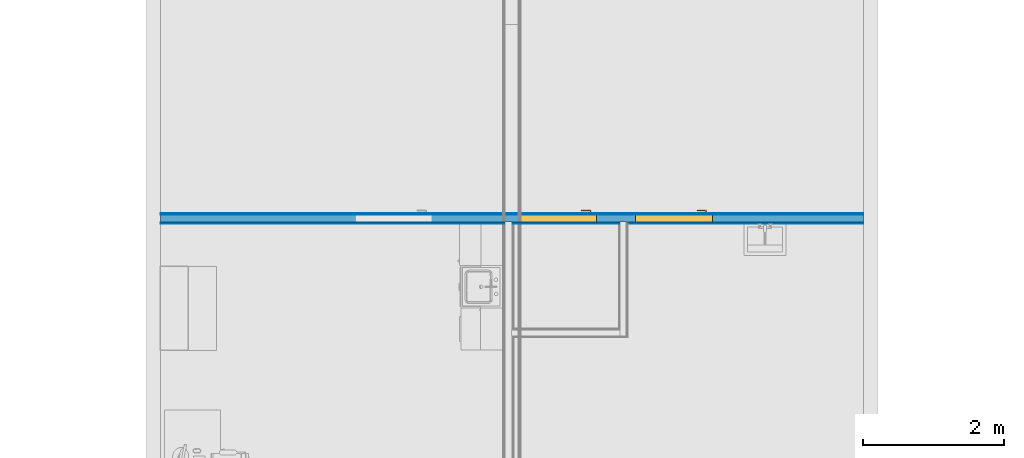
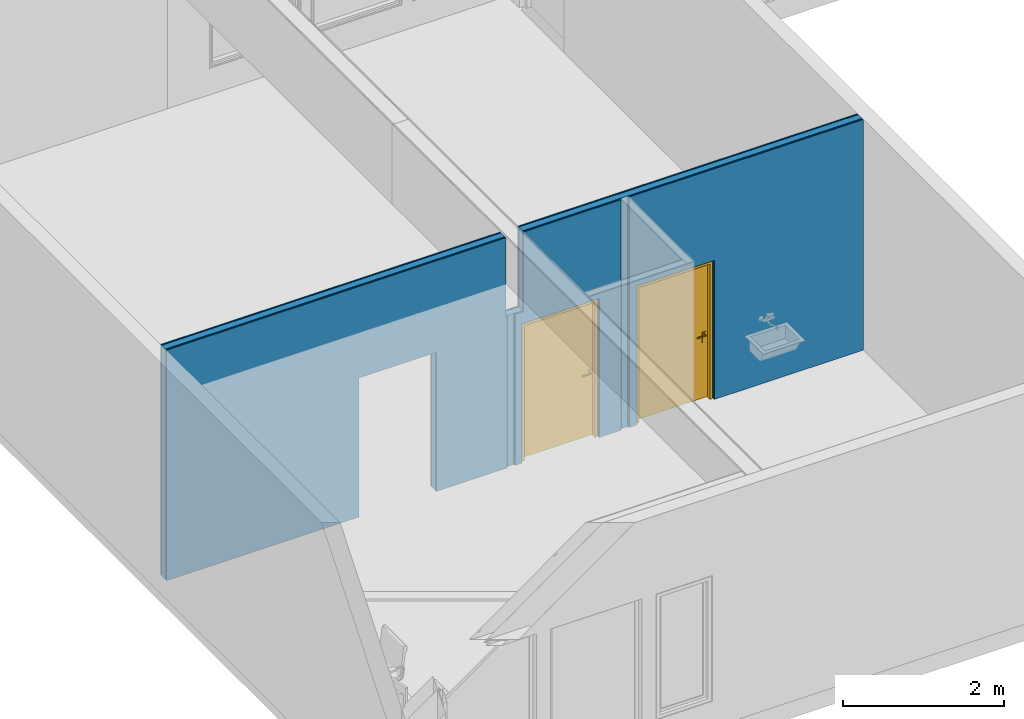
# One storey, part 4 of 12: 9 building element parts, 2 doors, 3 openings, 1 element without a shape of its own.
"""IFC4 building model written with IfcOpenShell, lengths in millimetres."""

from ifc_helpers import new_model, entity, si_unit, converted_unit, direction, frame, origin, place, context, subcontext, project, spatial, indexed_curve, outline, extrude, polygons, source, transform, mapped, material, constituent, constituent_set, type_object, type_shapes, element, fill, aggregate, save


model = new_model("IFC4")

# Units and contexts
model_context = context("Model", 3, precision=0.01, world=origin(), true_north=direction((0.0, 1.0)))
body_context = subcontext(model_context, "Body", "Model", "MODEL_VIEW")
ifc_project = project(units=[si_unit("LENGTHUNIT", "METRE", prefix="MILLI"), si_unit("AREAUNIT", "SQUARE_METRE"), si_unit("VOLUMEUNIT", "CUBIC_METRE"), converted_unit("PLANEANGLEUNIT", "DEGREE", entity("IfcPlaneAngleMeasure", 0.017453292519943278), si_unit("PLANEANGLEUNIT", "RADIAN"), dimensions=[0, 0, 0, 0, 0, 0, 0])], contexts=[model_context])

# Site, building, storey
site_placement = place(None, origin())
site = spatial("IfcSite", under=ifc_project, at=site_placement, Name="Tomtens navn", CompositionType="ELEMENT")
building_placement = place(site_placement, origin())
building = spatial("IfcBuilding", under=site, at=building_placement, Name="Byggets navn", CompositionType="ELEMENT")
storey_placement = place(building_placement, frame((0.0, 0.0, 3500.0)))
storey = spatial("IfcBuildingStorey", under=building, at=storey_placement, Name="Level 02", CompositionType="ELEMENT", Elevation=3499.999999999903)

# Door
ifc_material_1 = material(Name="Rustfritt Stål", Category="Metal")
ifc_constituent_1 = constituent(ifc_material_1, Name="Rustfritt Stål", Category="Metal", fraction=0.0016552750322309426)
ifc_material_2 = material(Name="Hvit", Category="Paint")
ifc_constituent_2 = constituent(ifc_material_2, Name="Hvit", Category="Paint", fraction=0.998344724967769)
ifc_constituent_set_1 = constituent_set(constituents=[ifc_constituent_1, ifc_constituent_2])
ifc_constituent_3 = constituent(ifc_material_1, Name="Rustfritt Stål", Category="Metal", fraction=0.0008283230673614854)
ifc_constituent_4 = constituent(ifc_material_2, Name="Panel", Category="Paint", fraction=0.4995858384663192)
ifc_constituent_5 = constituent(ifc_material_2, Name="Frame/Mullion", Category="Paint", fraction=0.4995858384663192)
ifc_constituent_set_2 = constituent_set(constituents=[ifc_constituent_3, ifc_constituent_4, ifc_constituent_5])
door_type = type_object("IfcDoorType", Name="Enfløyet:ID03 Tredør 11x21M - EI30", OperationType="SINGLE_SWING_LEFT", PredefinedType="DOOR", material=ifc_constituent_set_2)
shared_shape = source(origin(), body_context, "Body", "SweptSolid", [
    extrude(outline(indexed_curve([(-33.33333333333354, -50.833333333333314), (24.166666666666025, -50.833333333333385), (24.16666666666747, 86.66666666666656), (9.16666666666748, 86.6666666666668), (9.166666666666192, -35.83333333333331), (-33.33333333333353, -35.83333333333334), (-33.33333333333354, -50.833333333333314)], self_intersect=False)), frame((968.6666666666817, 147.94103942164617, 980.5000000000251), z_axis=(0.0, 0.0, 1.0), x_axis=(0.0, 1.0, 0.0)), (0.0, 0.0, 1.0), 14.999999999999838),
    extrude(outline(indexed_curve([(-2.8000000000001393, -25.000000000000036), (2.799999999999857, -25.000000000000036), (2.8000000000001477, 25.000000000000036), (-2.799999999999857, 24.999999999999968), (-2.8000000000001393, -25.000000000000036)], self_intersect=False)), frame((1012.0, 111.80000000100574, 850.9862950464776), z_axis=(0.0, 0.0, 1.0), x_axis=(0.0, -1.0, 0.0)), (0.0, 0.0, 1.0), 159.01370495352),
    extrude(outline(indexed_curve([(-50.83333333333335, -33.33333333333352), (-35.83333333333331, -33.33333333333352), (-35.83333333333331, 9.16666666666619), (86.66666666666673, 9.1666666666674), (86.66666666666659, 24.16666666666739), (-50.83333333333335, 24.16666666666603), (-50.83333333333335, -33.33333333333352)], self_intersect=False)), frame((968.6666666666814, 30.058960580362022, 980.5000000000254), z_axis=(0.0, 0.0, 1.0), x_axis=(-1.0, 0.0, 0.0)), (0.0, 0.0, 1.0), 14.999999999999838),
    extrude(outline(indexed_curve([(-24.999999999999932, -2.799999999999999), (25.00000000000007, -2.799999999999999), (25.0, 2.799999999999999), (-24.999999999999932, 2.800000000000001), (-24.999999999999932, -2.799999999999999)], self_intersect=False)), frame((1012.0, 66.20000000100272, 850.9862950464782)), (0.0, 0.0, 1.0), 159.01370495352),
    extrude(outline(indexed_curve([(-506.9999999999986, -19.999999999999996), (506.9999999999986, -19.999999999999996), (506.9999999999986, 19.999999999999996), (-506.9999999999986, 19.999999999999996), (-506.9999999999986, -19.999999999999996)], self_intersect=False)), frame((555.0, 89.00000000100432, 10.0)), (0.0, 0.0, 1.0), 2042.0),
    extrude(outline(indexed_curve([(506.99999999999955, -1035.5000000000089), (544.9999999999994, -1035.5000000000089), (544.9999999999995, 1054.5000000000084), (-544.9999999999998, 1054.5000000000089), (-544.9999999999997, -1035.5000000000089), (-506.99999999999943, -1035.5000000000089), (-506.99999999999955, 1016.5000000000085), (506.99999999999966, 1016.5000000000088), (506.99999999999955, -1035.5000000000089)], self_intersect=False)), frame((555.0, 109.00000000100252, 1035.5000000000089), z_axis=(0.0, -1.0, 0.0), x_axis=(1.0, 0.0, 0.0)), (0.0, 0.0, 1.0), 99.99999999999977),
])
type_shapes(door_type, [shared_shape])
wall_placement = place(storey_placement, frame((58622.85352810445, 14081.966456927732, 0.0)))
opening_1_placement = place(wall_placement, frame((6750.0, -74.50000000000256, 0.0)))
door_1_placement = place(opening_1_placement, frame((0.0, 20.0, 0.0)))
door_1 = element("IfcDoor", 1, at=door_1_placement, inside=storey, type_object=door_type, material=ifc_constituent_set_1, Name="Enfløyet:ID03 Tredør 11x21M - EI30", OverallHeight=2110.0000000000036, OverallWidth=1109.9999999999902, PredefinedType="DOOR", context=body_context, shape_type="MappedRepresentation", body=[
    mapped(shared_shape, transform((0.0, 0.0, 0.0), scale=1.0)),
])

ifc_constituent_6 = constituent(ifc_material_1, Name="Rustfritt Stål", Category="Metal", fraction=0.0016552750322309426)
ifc_constituent_7 = constituent(ifc_material_2, Name="Hvit", Category="Paint", fraction=0.998344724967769)
ifc_constituent_set_3 = constituent_set(constituents=[ifc_constituent_6, ifc_constituent_7])
opening_2_placement = place(wall_placement, frame((5102.500000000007, -74.50000000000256, 0.0)))
door_2_placement = place(opening_2_placement, frame((0.0, 20.0, 0.0)))
door_2 = element("IfcDoor", 2, at=door_2_placement, inside=storey, type_object=door_type, material=ifc_constituent_set_3, Name="Enfløyet:ID03 Tredør 11x21M - EI30", OverallHeight=2110.0000000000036, OverallWidth=1109.9999999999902, PredefinedType="DOOR", context=body_context, shape_type="MappedRepresentation", body=[
    mapped(shared_shape, transform((0.0, 0.0, 0.0), scale=1.0)),
])

# Wall, opening
wall_type = type_object("IfcWallType", Name="Basic Wall:IV05 - Forestia+Gips- Stender-kryssfiner- Gips", PredefinedType="STANDARD")
wall = element("IfcWall", 3, at=wall_placement, inside=storey, type_object=wall_type, Name="Basic Wall:IV05 - Forestia+Gips- Stender-kryssfiner- Gips", PredefinedType="NOTDEFINED")
opening_1 = element("IfcOpeningElement", 4, at=opening_1_placement, cuts=wall, Name="Enfløyet:ID03 Tredør 11x21M - EI30:1", PredefinedType="OPENING", context=body_context, shape_type="SweptSolid", body=[
    extrude(outline(indexed_curve([(0.0, -8.147794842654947e-29), (2110.0000000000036, -8.147794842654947e-29), (2110.000000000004, 1109.9999999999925), (0.0, 1109.9999999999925), (0.0, -8.147794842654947e-29)], self_intersect=False)), frame((0.0, 0.0, 0.0), z_axis=(0.0, 1.0, 0.0), x_axis=(0.0, 0.0, 1.0)), (0.0, 0.0, 1.0), 149.0),
])

fill(opening_1, door_1)

# Opening
opening_2 = element("IfcOpeningElement", 5, at=opening_2_placement, cuts=wall, Name="Enfløyet:ID03 Tredør 11x21M - EI30:1", PredefinedType="OPENING", context=body_context, shape_type="SweptSolid", body=[
    extrude(outline(indexed_curve([(0.0, -8.147794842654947e-29), (2110.0000000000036, -8.147794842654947e-29), (2110.000000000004, 1109.9999999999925), (0.0, 1109.9999999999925), (0.0, -8.147794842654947e-29)], self_intersect=False)), frame((0.0, 0.0, 0.0), z_axis=(0.0, 1.0, 0.0), x_axis=(0.0, 0.0, 1.0)), (0.0, 0.0, 1.0), 149.0),
])

fill(opening_2, door_2)

opening_3_placement = place(wall_placement, frame((2763.5000000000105, -74.50000000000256, 0.0)))
element("IfcOpeningElement", 6, at=opening_3_placement, cuts=wall, Name="Enfløyet:ID1 Glassdør 11x21M 38dB:1", PredefinedType="OPENING", context=body_context, shape_type="SweptSolid", body=[
    extrude(outline(indexed_curve([(0.0, -8.147794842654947e-29), (2110.0000000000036, -8.147794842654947e-29), (2110.000000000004, 1109.9999999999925), (0.0, 1109.9999999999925), (0.0, -8.147794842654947e-29)], self_intersect=False)), frame((0.0, 0.0, 0.0), z_axis=(0.0, 1.0, 0.0), x_axis=(0.0, 0.0, 1.0)), (0.0, 0.0, 1.0), 149.0),
])

# Building element part
ifc_material_3 = material(Name="NO_Kryssfiner", Category="Tre")
building_element_part_1_placement = place(wall_placement, frame((4994.499999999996, -61.5, 0.0)))
building_element_part_1 = element("IfcBuildingElementPart", 7, at=building_element_part_1_placement, material=ifc_material_3, Name="NO_Kryssfiner", context=body_context, shape_type="Tessellation", body=[
    polygons([(108.00000000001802, 14.999999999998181, 9.094947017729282e-13), (108.00000000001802, 15.0, 2110.000000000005), (108.00000000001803, 1.8189894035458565e-12, 2110.000000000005), (108.00000000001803, 1.8189894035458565e-12, 9.094947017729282e-13), (1218.0000000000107, 15.0, 2110.000000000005), (1218.0000000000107, 3.637978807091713e-12, 2110.000000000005), (1218.0000000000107, 15.0, 9.094947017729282e-13), (1218.0000000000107, 3.637978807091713e-12, 9.094947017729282e-13), (131.00000000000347, 14.999999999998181, 3500.000000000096), (131.00000000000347, 14.999999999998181, 2290.000000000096), (131.00000000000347, 1.8189894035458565e-12, 2290.000000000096), (131.00000000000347, 1.8189894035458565e-12, 3500.000000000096), (1541.0000000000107, 15.0, 1.8189894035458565e-12), (1541.0000000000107, 3.637978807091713e-12, 9.094947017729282e-13), (1541.0000000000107, 15.000000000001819, 3500.000000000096), (1541.0000000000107, 3.637978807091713e-12, 3500.000000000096), (1.0749273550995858e-11, 15.0, 2290.000000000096), (1.0749273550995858e-11, 15.0, 9.094947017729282e-13), (1.0753337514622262e-11, 1.8189894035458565e-12, 9.094947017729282e-13), (1.0753337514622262e-11, 1.8189894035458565e-12, 2290.000000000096)], [[[1, 2, 3, 4]], [[2, 5, 6, 3]], [[5, 7, 8, 6]], [[9, 10, 11, 12]], [[8, 7, 13, 14]], [[13, 15, 16, 14]], [[17, 18, 19, 20]], [[1, 4, 19, 18]], [[11, 10, 17, 20]], [[9, 12, 16, 15]], [[12, 11, 20, 19, 4, 3, 6, 8, 14, 16]], [[7, 5, 2, 1, 18, 17, 10, 9, 15, 13]]], closed=True),
])

building_element_part_2_placement = place(wall_placement, frame((6630.500000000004, -61.49999999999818, 0.0)))
building_element_part_2 = element("IfcBuildingElementPart", 8, at=building_element_part_2_placement, material=ifc_material_3, Name="NO_Kryssfiner", context=body_context, shape_type="Tessellation", body=[
    polygons([(3369.499999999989, 3.637978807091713e-12, 3500.000000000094), (3369.499999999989, 15.0, 3500.000000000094), (-3.8026416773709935e-12, 15.000000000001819, 3500.000000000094), (-3.79857771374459e-12, 3.637978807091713e-12, 3500.000000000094), (3369.499999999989, 15.0, 0.0), (3369.499999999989, 3.637978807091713e-12, -9.094947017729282e-13), (119.49999999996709, 15.0, -9.094947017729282e-13), (119.49999999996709, 15.0, 2110.000000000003), (119.4999999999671, 3.637978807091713e-12, 2110.000000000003), (119.4999999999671, 3.637978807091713e-12, -9.094947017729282e-13), (1229.4999999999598, 15.0, 2110.000000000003), (1229.4999999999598, 3.637978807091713e-12, 2110.000000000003), (1229.4999999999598, 15.0, -9.094947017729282e-13), (1229.4999999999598, 3.637978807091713e-12, -9.094947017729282e-13), (-3.8026416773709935e-12, 15.0, -9.094947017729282e-13), (-3.79857771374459e-12, 3.637978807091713e-12, -9.094947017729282e-13)], [[[1, 2, 3, 4]], [[5, 2, 1, 6]], [[7, 8, 9, 10]], [[8, 11, 12, 9]], [[11, 13, 14, 12]], [[13, 5, 6, 14]], [[3, 15, 16, 4]], [[7, 10, 16, 15]], [[14, 6, 1, 4, 16, 10, 9, 12]], [[5, 13, 11, 8, 7, 15, 3, 2]]], closed=True),
])

building_element_part_3_placement = place(wall_placement, frame((0.0, -61.5, 0.0)))
building_element_part_3 = element("IfcBuildingElementPart", 9, at=building_element_part_3_placement, material=ifc_material_3, Name="NO_Kryssfiner", context=body_context, shape_type="Tessellation", body=[
    polygons([(3873.500000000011, 15.000000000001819, 9.094947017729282e-13), (3873.500000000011, 15.000000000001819, 2110.000000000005), (2763.500000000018, 15.000000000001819, 2110.000000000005), (2763.500000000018, 15.000000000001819, 9.094947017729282e-13), (1.8025231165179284e-11, 15.000000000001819, 9.094947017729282e-13), (1.8025231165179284e-11, 15.000000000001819, 3500.000000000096), (4873.499999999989, 15.000000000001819, 3500.000000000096), (4873.500000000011, 15.000000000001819, 2290.000000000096), (4899.500000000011, 15.000000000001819, 2290.000000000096), (4899.500000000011, 15.000000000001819, 9.094947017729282e-13), (4873.500000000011, 3.637978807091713e-12, 2290.000000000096), (4873.499999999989, 3.637978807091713e-12, 3500.000000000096), (1.8029295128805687e-11, 3.637978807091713e-12, 3500.000000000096), (1.8029295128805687e-11, 3.637978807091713e-12, 9.094947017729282e-13), (2763.500000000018, 3.637978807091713e-12, 9.094947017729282e-13), (2763.500000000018, 3.637978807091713e-12, 2110.000000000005), (3873.500000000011, 3.637978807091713e-12, 2110.000000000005), (3873.500000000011, 3.637978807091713e-12, 1.8189894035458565e-12), (4899.500000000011, 3.637978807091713e-12, 9.094947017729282e-13), (4899.500000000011, 3.637978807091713e-12, 2290.000000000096)], [[[1, 2, 3, 4, 5, 6, 7, 8, 9, 10]], [[11, 12, 13, 14, 15, 16, 17, 18, 19, 20]], [[5, 4, 15, 14]], [[6, 5, 14, 13]], [[8, 7, 12, 11]], [[8, 11, 20, 9]], [[4, 3, 16, 15]], [[3, 2, 17, 16]], [[2, 1, 18, 17]], [[7, 6, 13, 12]], [[18, 1, 10, 19]], [[10, 9, 20, 19]]], closed=True),
])

ifc_material_4 = material(Name="NO_platekledning forestia", Category="Tre")
building_element_part_4_placement = place(wall_placement, frame((0.0, 61.49999999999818, 0.0)))
building_element_part_4 = element("IfcBuildingElementPart", 10, at=building_element_part_4_placement, material=ifc_material_4, Name="NO_platekledning forestia", context=body_context, shape_type="Tessellation", body=[
    polygons([(7859.9999999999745, 0.0, 9.094947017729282e-13), (10000.000000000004, 0.0, 9.094947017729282e-13), (10000.000000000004, 0.0, 3500.000000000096), (5125.500000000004, -1.8189894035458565e-12, 3500.000000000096), (5125.500000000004, -1.8189894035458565e-12, 2290.000000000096), (4873.500000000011, 3.637978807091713e-12, 2290.000000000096), (4873.499999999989, 3.637978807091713e-12, 3500.000000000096), (1.7995970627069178e-11, 3.637978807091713e-12, 3500.000000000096), (1.7995970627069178e-11, 3.637978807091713e-12, 9.094947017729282e-13), (2763.500000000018, 3.637978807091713e-12, 9.094947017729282e-13), (2763.500000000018, 3.637978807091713e-12, 2110.000000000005), (3873.500000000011, 3.637978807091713e-12, 2110.000000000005), (3873.500000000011, 3.637978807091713e-12, 9.094947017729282e-13), (5102.500000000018, -1.8189894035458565e-12, 9.094947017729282e-13), (5102.500000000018, -1.8189894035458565e-12, 2110.000000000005), (6212.500000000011, 0.0, 2110.000000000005), (6212.500000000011, 0.0, 9.094947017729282e-13), (6749.999999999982, 0.0, 9.094947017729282e-13), (6749.999999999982, 0.0, 2110.000000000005), (7859.9999999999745, 0.0, 2110.000000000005), (1.7992448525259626e-11, 13.000000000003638, 9.094947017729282e-13), (2763.500000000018, 13.000000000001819, 9.094947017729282e-13), (10000.000000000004, 13.000000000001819, 3500.000000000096), (5125.500000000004, 13.000000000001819, 3500.000000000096), (9999.999999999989, 13.000000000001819, 9.094947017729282e-13), (6749.999999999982, 13.000000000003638, 9.094947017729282e-13), (6749.999999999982, 13.000000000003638, 2110.000000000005), (7859.9999999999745, 13.000000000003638, 2110.000000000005), (7859.9999999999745, 13.000000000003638, 9.094947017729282e-13), (5102.500000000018, 13.000000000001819, 9.094947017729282e-13), (5102.500000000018, 13.000000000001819, 2110.000000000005), (6212.500000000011, 13.000000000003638, 2110.000000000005), (6212.500000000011, 13.000000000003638, 9.094947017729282e-13), (1.7992448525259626e-11, 13.000000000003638, 3500.000000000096), (4873.500000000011, 13.000000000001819, 2290.000000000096), (4873.499999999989, 13.000000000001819, 3500.000000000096), (5125.500000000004, 13.000000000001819, 2290.000000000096), (2763.500000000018, 13.000000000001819, 2110.000000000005), (3873.500000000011, 13.000000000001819, 2110.000000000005), (3873.500000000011, 13.000000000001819, 9.094947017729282e-13)], [[[1, 2, 3, 4, 5, 6, 7, 8, 9, 10, 11, 12, 13, 14, 15, 16, 17, 18, 19, 20]], [[21, 22, 10, 9]], [[23, 24, 4, 3]], [[25, 23, 3, 2]], [[26, 27, 19, 18]], [[27, 28, 20, 19]], [[28, 29, 1, 20]], [[30, 31, 15, 14]], [[31, 32, 16, 15]], [[32, 33, 17, 16]], [[34, 21, 9, 8]], [[35, 36, 7, 6]], [[24, 37, 5, 4]], [[37, 35, 6, 5]], [[22, 38, 11, 10]], [[38, 39, 12, 11]], [[39, 40, 13, 12]], [[36, 34, 8, 7]], [[40, 30, 14, 13]], [[33, 26, 18, 17]], [[29, 25, 2, 1]], [[23, 25, 29, 28, 27, 26, 33, 32, 31, 30, 40, 39, 38, 22, 21, 34, 36, 35, 37, 24]]], closed=True),
])

ifc_material_5 = material(Name="Stender", Category="Unassigned")
building_element_part_5_placement = place(wall_placement, frame((0.0, -46.50000000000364, 0.0)))
building_element_part_5 = element("IfcBuildingElementPart", 11, at=building_element_part_5_placement, material=ifc_material_5, Name="Stender", context=body_context, shape_type="Tessellation", body=[
    polygons([(7859.9999999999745, 5.4569682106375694e-12, 1.8189894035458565e-12), (10000.000000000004, 5.4569682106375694e-12, 1.8189894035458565e-12), (10000.000000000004, 5.4569682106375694e-12, 3500.000000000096), (5125.500000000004, 3.637978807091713e-12, 3500.000000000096), (5125.500000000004, 3.637978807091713e-12, 2290.000000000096), (4873.500000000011, 5.4569682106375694e-12, 2290.000000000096), (4873.499999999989, 5.4569682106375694e-12, 3500.000000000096), (1.8025231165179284e-11, 5.4569682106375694e-12, 3500.000000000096), (1.8025231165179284e-11, 5.4569682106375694e-12, 9.094947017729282e-13), (2763.500000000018, 5.4569682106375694e-12, 9.094947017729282e-13), (2763.500000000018, 5.4569682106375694e-12, 2110.000000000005), (3873.500000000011, 5.4569682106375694e-12, 2110.000000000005), (3873.500000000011, 5.4569682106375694e-12, 9.094947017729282e-13), (5102.500000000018, 3.637978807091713e-12, 9.094947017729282e-13), (5102.500000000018, 3.637978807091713e-12, 2110.000000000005), (6212.500000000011, 5.4569682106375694e-12, 2110.000000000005), (6212.500000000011, 5.4569682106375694e-12, 1.8189894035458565e-12), (6749.999999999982, 5.4569682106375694e-12, 9.094947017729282e-13), (6749.999999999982, 5.4569682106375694e-12, 2110.000000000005), (7859.9999999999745, 5.4569682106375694e-12, 2110.000000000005), (10000.000000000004, 95.00000000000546, 1.8189894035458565e-12), (7859.9999999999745, 95.00000000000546, 9.094947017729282e-13), (7859.9999999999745, 95.00000000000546, 2110.000000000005), (6749.999999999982, 95.00000000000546, 2110.000000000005), (6749.999999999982, 95.00000000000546, 9.094947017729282e-13), (6212.500000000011, 95.00000000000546, 9.094947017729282e-13), (6212.500000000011, 95.00000000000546, 2110.000000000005), (5102.500000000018, 95.00000000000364, 2110.000000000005), (5102.500000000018, 95.00000000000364, 9.094947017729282e-13), (3873.500000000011, 95.00000000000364, 9.094947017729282e-13), (3873.500000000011, 95.00000000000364, 2110.000000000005), (2763.500000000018, 95.00000000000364, 2110.000000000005), (2763.500000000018, 95.00000000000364, 9.094947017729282e-13), (1.7999492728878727e-11, 95.00000000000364, 9.094947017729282e-13), (1.7999492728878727e-11, 95.00000000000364, 3500.000000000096), (4873.499999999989, 95.00000000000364, 3500.000000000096), (4873.500000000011, 95.00000000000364, 2290.000000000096), (5125.500000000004, 95.00000000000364, 2290.000000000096), (5125.500000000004, 95.00000000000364, 3500.000000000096), (10000.000000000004, 95.00000000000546, 3500.000000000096)], [[[1, 2, 3, 4, 5, 6, 7, 8, 9, 10, 11, 12, 13, 14, 15, 16, 17, 18, 19, 20]], [[21, 22, 23, 24, 25, 26, 27, 28, 29, 30, 31, 32, 33, 34, 35, 36, 37, 38, 39, 40]], [[9, 34, 33, 10]], [[3, 40, 39, 4]], [[2, 21, 40, 3]], [[18, 25, 24, 19]], [[19, 24, 23, 20]], [[22, 1, 20, 23]], [[14, 29, 28, 15]], [[15, 28, 27, 16]], [[26, 17, 16, 27]], [[34, 9, 8, 35]], [[36, 7, 6, 37]], [[4, 39, 38, 5]], [[37, 6, 5, 38]], [[10, 33, 32, 11]], [[11, 32, 31, 12]], [[30, 13, 12, 31]], [[35, 8, 7, 36]], [[29, 14, 13, 30]], [[25, 18, 17, 26]], [[21, 2, 1, 22]]], closed=True),
])

ifc_material_6 = material(Name="Gipsplater", Category="NOR ^ Gips")
building_element_part_6_placement = place(wall_placement, frame((5009.499999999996, -74.50000000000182, 0.0)))
building_element_part_6 = element("IfcBuildingElementPart", 12, at=building_element_part_6_placement, material=ifc_material_6, Name="Gipsplater", context=body_context, shape_type="Tessellation", body=[
    polygons([(93.00000000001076, 13.000000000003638, 9.094947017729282e-13), (93.00000000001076, 13.000000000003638, 2110.000000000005), (93.00000000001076, 0.0, 2110.000000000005), (93.00000000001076, 0.0, 9.094947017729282e-13), (1203.0000000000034, 13.000000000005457, 2110.000000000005), (1203.0000000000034, 1.8189894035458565e-12, 2110.000000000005), (1203.0000000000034, 13.000000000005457, 9.094947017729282e-13), (1203.0000000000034, 1.8189894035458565e-12, 9.094947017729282e-13), (115.9999999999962, 13.000000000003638, 3500.000000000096), (115.9999999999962, 13.000000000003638, 2290.000000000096), (115.9999999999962, 0.0, 2290.000000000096), (115.9999999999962, 0.0, 3500.000000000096), (1513.0000000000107, 13.000000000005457, 9.094947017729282e-13), (1513.0000000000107, 1.8189894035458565e-12, 9.094947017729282e-13), (1513.0000000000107, 13.000000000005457, 3500.000000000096), (1513.0000000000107, 1.8189894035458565e-12, 3500.000000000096), (3.4773799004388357e-12, 13.000000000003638, 2290.000000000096), (3.4773799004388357e-12, 13.000000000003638, 9.094947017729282e-13), (3.480902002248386e-12, 0.0, 9.094947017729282e-13), (3.480902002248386e-12, 0.0, 2290.000000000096), (13.000000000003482, 0.0, 2290.000000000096), (13.000000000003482, 0.0, 9.094947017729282e-13)], [[[1, 2, 3, 4]], [[2, 5, 6, 3]], [[5, 7, 8, 6]], [[9, 10, 11, 12]], [[8, 7, 13, 14]], [[13, 15, 16, 14]], [[17, 18, 19, 20]], [[16, 12, 11, 21, 20, 19, 22, 4, 3, 6, 8, 14]], [[1, 4, 22, 19, 18]], [[11, 10, 17, 20, 21]], [[9, 12, 16, 15]], [[7, 5, 2, 1, 18, 17, 10, 9, 15, 13]]], closed=True),
])

building_element_part_7_placement = place(wall_placement, frame((6643.499999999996, -74.50000000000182, 0.0)))
building_element_part_7 = element("IfcBuildingElementPart", 13, at=building_element_part_7_placement, material=ifc_material_6, Name="Gipsplater", context=body_context, shape_type="Tessellation", body=[
    polygons([(1.803281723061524e-11, 3.637978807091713e-12, 3500.000000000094), (3356.499999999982, 1.8189894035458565e-12, 3500.000000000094), (3356.4999999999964, 13.000000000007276, 3500.000000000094), (1.8029295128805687e-11, 13.000000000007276, 3500.000000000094), (3356.4999999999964, 13.000000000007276, -9.094947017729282e-13), (3356.4999999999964, 1.8189894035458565e-12, -9.094947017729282e-13), (106.49999999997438, 13.000000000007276, -9.094947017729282e-13), (106.49999999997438, 13.000000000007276, 2110.000000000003), (106.49999999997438, 3.637978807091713e-12, 2110.000000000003), (106.49999999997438, 3.637978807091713e-12, -9.094947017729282e-13), (1216.499999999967, 13.000000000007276, 2110.000000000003), (1216.499999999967, 3.637978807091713e-12, 2110.000000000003), (1216.499999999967, 13.000000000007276, -9.094947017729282e-13), (1216.499999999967, 3.637978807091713e-12, -9.094947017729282e-13), (1.8029295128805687e-11, 13.000000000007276, -9.094947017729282e-13), (1.803281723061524e-11, 3.637978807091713e-12, -9.094947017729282e-13)], [[[1, 2, 3, 4]], [[5, 3, 2, 6]], [[7, 8, 9, 10]], [[8, 11, 12, 9]], [[11, 13, 14, 12]], [[13, 5, 6, 14]], [[4, 15, 16, 1]], [[2, 1, 16, 10, 9, 12, 14, 6]], [[7, 10, 16, 15]], [[5, 13, 11, 8, 7, 15, 4, 3]]], closed=True),
])

building_element_part_8_placement = place(wall_placement, frame((0.0, -74.50000000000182, 0.0)))
building_element_part_8 = element("IfcBuildingElementPart", 14, at=building_element_part_8_placement, material=ifc_material_6, Name="Gipsplater", context=body_context, shape_type="Tessellation", body=[
    polygons([(3873.500000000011, 13.000000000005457, 0.0), (3873.500000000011, 13.000000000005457, 2110.000000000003), (2763.500000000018, 13.000000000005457, 2110.000000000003), (2763.500000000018, 13.000000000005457, -9.094947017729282e-13), (1.8029295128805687e-11, 13.000000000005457, -9.094947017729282e-13), (1.8029295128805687e-11, 13.000000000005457, 3500.000000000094), (4873.499999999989, 13.000000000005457, 3500.000000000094), (4873.500000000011, 13.000000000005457, 2290.000000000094), (4886.500000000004, 13.000000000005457, 2290.000000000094), (4886.500000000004, 13.000000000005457, 0.0), (2763.500000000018, 1.8189894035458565e-12, -9.094947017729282e-13), (1.803281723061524e-11, 3.637978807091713e-12, -9.094947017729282e-13), (1.803281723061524e-11, 3.637978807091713e-12, 3500.000000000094), (4873.499999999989, 1.8189894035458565e-12, 3500.000000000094), (4873.499999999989, 1.8189894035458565e-12, 2290.000000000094), (4886.500000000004, 1.8189894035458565e-12, 2290.000000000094), (2763.500000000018, 1.8189894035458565e-12, 2110.000000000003), (3873.500000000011, 1.8189894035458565e-12, 2110.000000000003), (3873.500000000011, 1.8189894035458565e-12, -9.094947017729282e-13), (4886.500000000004, 1.8189894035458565e-12, -9.094947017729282e-13), (4873.500000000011, 1.8189894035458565e-12, -9.094947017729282e-13)], [[[1, 2, 3, 4, 5, 6, 7, 8, 9, 10]], [[5, 4, 11, 12]], [[6, 5, 12, 13]], [[8, 7, 14, 15]], [[8, 15, 16, 9]], [[4, 3, 17, 11]], [[3, 2, 18, 17]], [[2, 1, 19, 18]], [[7, 6, 13, 14]], [[19, 1, 10, 20, 21]], [[12, 11, 17, 18, 19, 21, 20, 16, 15, 14, 13]], [[10, 9, 16, 20]]], closed=True),
])

building_element_part_9_placement = place(wall_placement, frame((0.0, 48.49999999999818, 0.0)))
building_element_part_9 = element("IfcBuildingElementPart", 15, at=building_element_part_9_placement, material=ifc_material_6, Name="Gipsplater", context=body_context, shape_type="Tessellation", body=[
    polygons([(10000.000000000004, 13.0, 9.094947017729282e-13), (7859.9999999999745, 13.0, 9.094947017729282e-13), (7859.9999999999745, 13.0, 2110.000000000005), (6749.999999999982, 13.0, 2110.000000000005), (6749.999999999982, 13.0, 9.094947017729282e-13), (6212.500000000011, 13.0, 9.094947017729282e-13), (6212.500000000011, 13.0, 2110.000000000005), (5102.500000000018, 12.999999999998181, 2110.000000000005), (5102.500000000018, 12.999999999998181, 9.094947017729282e-13), (3873.500000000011, 13.000000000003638, 9.094947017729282e-13), (3873.500000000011, 13.000000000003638, 2110.000000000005), (2763.500000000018, 13.000000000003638, 2110.000000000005), (2763.500000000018, 13.000000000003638, 9.094947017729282e-13), (1.7995970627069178e-11, 13.000000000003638, 9.094947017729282e-13), (1.7995970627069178e-11, 13.000000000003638, 3500.000000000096), (4873.499999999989, 13.000000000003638, 3500.000000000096), (4873.500000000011, 13.000000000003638, 2290.000000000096), (5125.500000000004, 12.999999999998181, 2290.000000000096), (5125.500000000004, 12.999999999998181, 3500.000000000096), (10000.000000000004, 13.0, 3500.000000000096), (7859.9999999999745, 3.637978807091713e-12, 9.094947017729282e-13), (10000.000000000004, 3.637978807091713e-12, 1.8189894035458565e-12), (10000.000000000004, 3.637978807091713e-12, 3500.000000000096), (5125.500000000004, 1.8189894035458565e-12, 3500.000000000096), (5125.500000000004, 1.8189894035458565e-12, 2290.000000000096), (4873.500000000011, 1.8189894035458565e-12, 2290.000000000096), (4873.499999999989, 1.8189894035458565e-12, 3500.000000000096), (1.7999492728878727e-11, 1.8189894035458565e-12, 3500.000000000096), (1.7999492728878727e-11, 1.8189894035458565e-12, 9.094947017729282e-13), (2763.500000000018, 1.8189894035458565e-12, 9.094947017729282e-13), (2763.500000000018, 1.8189894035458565e-12, 2110.000000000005), (3873.500000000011, 1.8189894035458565e-12, 2110.000000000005), (3873.500000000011, 1.8189894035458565e-12, 9.094947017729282e-13), (5102.500000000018, 1.8189894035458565e-12, 9.094947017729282e-13), (5102.500000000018, 1.8189894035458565e-12, 2110.000000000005), (6212.500000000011, 3.637978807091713e-12, 2110.000000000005), (6212.500000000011, 3.637978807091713e-12, 9.094947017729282e-13), (6749.999999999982, 3.637978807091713e-12, 9.094947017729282e-13), (6749.999999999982, 3.637978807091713e-12, 2110.000000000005), (7859.9999999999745, 3.637978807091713e-12, 2110.000000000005)], [[[1, 2, 3, 4, 5, 6, 7, 8, 9, 10, 11, 12, 13, 14, 15, 16, 17, 18, 19, 20]], [[21, 22, 23, 24, 25, 26, 27, 28, 29, 30, 31, 32, 33, 34, 35, 36, 37, 38, 39, 40]], [[29, 14, 13, 30]], [[23, 20, 19, 24]], [[22, 1, 20, 23]], [[38, 5, 4, 39]], [[39, 4, 3, 40]], [[2, 21, 40, 3]], [[34, 9, 8, 35]], [[35, 8, 7, 36]], [[6, 37, 36, 7]], [[14, 29, 28, 15]], [[16, 27, 26, 17]], [[24, 19, 18, 25]], [[17, 26, 25, 18]], [[30, 13, 12, 31]], [[31, 12, 11, 32]], [[10, 33, 32, 11]], [[15, 28, 27, 16]], [[9, 34, 33, 10]], [[5, 38, 37, 6]], [[1, 22, 21, 2]]], closed=True),
])

aggregate(wall, [building_element_part_1, building_element_part_2, building_element_part_3, building_element_part_4, building_element_part_5, building_element_part_6, building_element_part_7, building_element_part_8, building_element_part_9])

save(model, "model.ifc")
